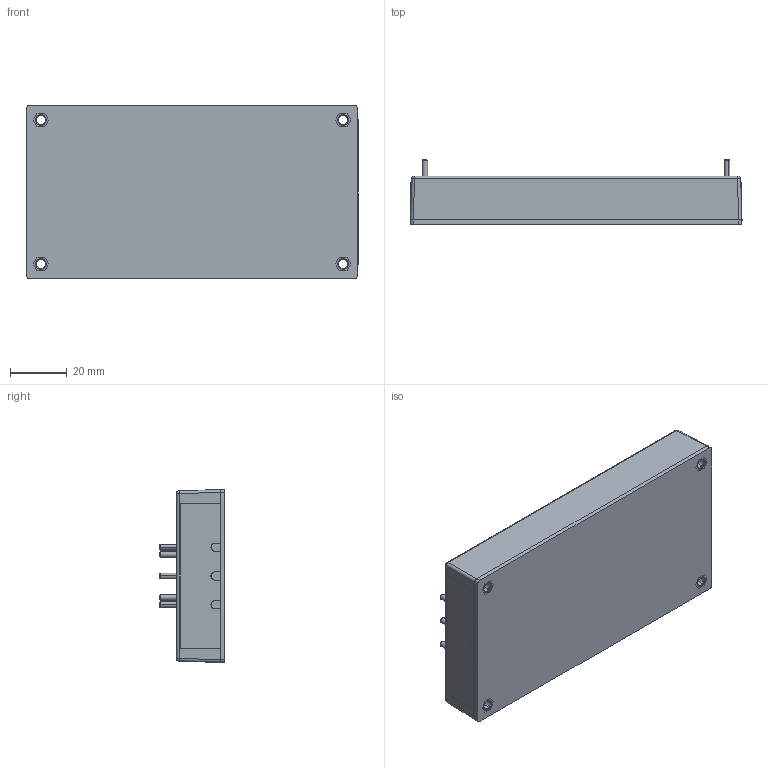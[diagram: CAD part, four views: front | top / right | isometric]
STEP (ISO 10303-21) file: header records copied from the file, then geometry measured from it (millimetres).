
FILE_DESCRIPTION (( 'STEP AP214' ), '1' );
FILE_NAME ('ASB110 SPEC-1040309A.STEP', '2015-03-09T08:18:48', ( 'fangyi' ), ( 'cc' ), 'SwSTEP 2.0', 'SolidWorks 2008', '' );
FILE_SCHEMA (( 'AUTOMOTIVE_DESIGN' ));
Length unit declared in the file: millimetre
Products named in the file (9): 灌膠口示意圖-1040309_預設; ｶ鷄IN d2.0; CBM100 CASE(M-B348-01-M)G5695001100字加大加出線孔-1010507_預設; CBM100六角銅柱(d3.2)-1030718; 電子線孔灌膠口示意圖-1040309_預設; 左右貼紙-1040309_預設; ASB110鋁板(六角銅柱無攻牙)(M-B117-01-J)G6611961617; ASB110 SPEC-1040309A
Assembly tree (21 placements, depth 3):
  ASB110 SPEC-1040309A
    電子線孔灌膠口示意圖-1040309_預設  x5
    ｶ鷄IN d2.0  x6
    CBM100 CASE(M-B348-01-M)G5695001100字加大加出線孔-1010507_預設
    灌膠口示意圖-1040309_預設
    ASB110鋁板(六角銅柱無攻牙)(M-B117-01-J)G6611961617
      CBM100六角銅柱(d3.2)-1030718  x4
      ASB110鋁板(六角銅柱無攻牙)(M-B117-01-J)G6611961617
    左右貼紙-1040309_預設  x2
Bounding box: 117.2 x 22.9 x 61 mm (x, y, z)
Volume: 29506.1 mm3; surface area: 44345.6 mm2
Topology: 20 solids, 20 shells, 603 faces, 1481 edges, 964 vertices
Faces by surface type: plane 352, cylinder 114, bspline 71, cone 50, torus 12, sphere 4
Entity records: 17839 total; most frequent: CARTESIAN_POINT 6730, ORIENTED_EDGE 2310, DIRECTION 1935, EDGE_CURVE 1155, VECTOR 845, LINE 845, VERTEX_POINT 760, AXIS2_PLACEMENT_3D 545
